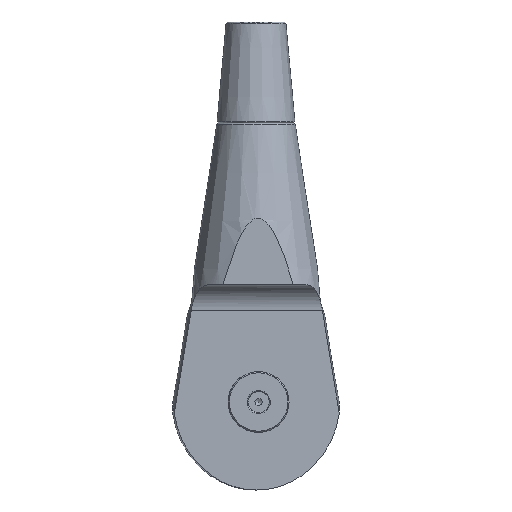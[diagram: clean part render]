
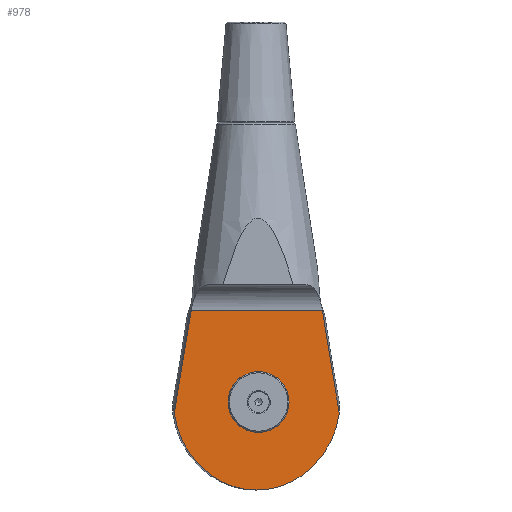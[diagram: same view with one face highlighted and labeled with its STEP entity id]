
A CAD part, left-side view. The second image highlights one B-rep face of the part: STEP entity #978.
In plain terms, the highlighted planar face has unit normal (-0.999, -0.038, 0).
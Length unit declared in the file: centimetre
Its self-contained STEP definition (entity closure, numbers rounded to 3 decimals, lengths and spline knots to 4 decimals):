
#51=LINE('',#1796,#83);
#83=VECTOR('',#1350,22.6758);
#100=(
BOUNDED_CURVE()
B_SPLINE_CURVE(2,(#1618,#1619,#1620),.UNSPECIFIED.,.F.,.F.)
B_SPLINE_CURVE_WITH_KNOTS((3,3),(0.,19.4073),.UNSPECIFIED.)
CURVE()
GEOMETRIC_REPRESENTATION_ITEM()
RATIONAL_B_SPLINE_CURVE((1.,1.01,1.008))
REPRESENTATION_ITEM('')
);
#104=(
BOUNDED_CURVE()
B_SPLINE_CURVE(2,(#1744,#1745,#1746),.UNSPECIFIED.,.F.,.F.)
B_SPLINE_CURVE_WITH_KNOTS((3,3),(12.055,31.4623),
 .UNSPECIFIED.)
CURVE()
GEOMETRIC_REPRESENTATION_ITEM()
RATIONAL_B_SPLINE_CURVE((1.008,1.01,1.))
REPRESENTATION_ITEM('')
);
#152=PLANE('',#1099);
#191=FACE_BOUND('',#356,.T.);
#254=FACE_OUTER_BOUND('',#355,.T.);
#355=EDGE_LOOP('',(#793,#794,#795,#796,#797,#798));
#356=EDGE_LOOP('',(#799));
#411=CIRCLE('',#1088,4.75);
#413=CIRCLE('',#1091,15.5873);
#415=CIRCLE('',#1094,15.5873);
#417=CIRCLE('',#1097,13.5);
#484=VERTEX_POINT('',#1594);
#485=VERTEX_POINT('',#1617);
#496=VERTEX_POINT('',#1728);
#497=VERTEX_POINT('',#1743);
#499=VERTEX_POINT('',#1776);
#501=VERTEX_POINT('',#1781);
#503=VERTEX_POINT('',#1787);
#582=EDGE_CURVE('',#484,#485,#100,.T.);
#594=EDGE_CURVE('',#496,#497,#104,.T.);
#599=EDGE_CURVE('',#499,#499,#411,.T.);
#601=EDGE_CURVE('',#496,#501,#413,.T.);
#604=EDGE_CURVE('',#503,#485,#415,.T.);
#607=EDGE_CURVE('',#501,#503,#417,.T.);
#609=EDGE_CURVE('',#484,#497,#51,.T.);
#793=ORIENTED_EDGE('',*,*,#601,.T.);
#794=ORIENTED_EDGE('',*,*,#607,.T.);
#795=ORIENTED_EDGE('',*,*,#604,.T.);
#796=ORIENTED_EDGE('',*,*,#582,.F.);
#797=ORIENTED_EDGE('',*,*,#609,.T.);
#798=ORIENTED_EDGE('',*,*,#594,.F.);
#799=ORIENTED_EDGE('',*,*,#599,.T.);
#978=ADVANCED_FACE('',(#254,#191),#152,.F.);
#1088=AXIS2_PLACEMENT_3D('',#1777,#1324,#1325);
#1091=AXIS2_PLACEMENT_3D('',#1782,#1330,#1331);
#1094=AXIS2_PLACEMENT_3D('',#1788,#1337,#1338);
#1097=AXIS2_PLACEMENT_3D('',#1793,#1344,#1345);
#1099=AXIS2_PLACEMENT_3D('',#1795,#1348,#1349);
#1324=DIRECTION('center_axis',(0.999,0.038,0.));
#1325=DIRECTION('ref_axis',(0.,0.,1.));
#1330=DIRECTION('center_axis',(-0.999,-0.038,0.));
#1331=DIRECTION('ref_axis',(0.038,-0.999,0.));
#1337=DIRECTION('center_axis',(-0.999,-0.038,0.));
#1338=DIRECTION('ref_axis',(-0.022,0.58,0.814));
#1344=DIRECTION('center_axis',(-0.999,-0.038,0.));
#1345=DIRECTION('ref_axis',(0.022,-0.58,0.814));
#1348=DIRECTION('center_axis',(0.999,0.038,0.));
#1349=DIRECTION('ref_axis',(0.,0.,1.));
#1350=DIRECTION('',(-0.038,0.999,0.));
#1594=CARTESIAN_POINT('',(-3.0678,-22.0183,-14.1716));
#1617=CARTESIAN_POINT('',(-2.9572,-24.9356,-31.9434));
#1618=CARTESIAN_POINT('Ctrl Pts',(-3.0678,-22.0183,-14.1716));
#1619=CARTESIAN_POINT('Ctrl Pts',(-3.0183,-23.3223,-22.044));
#1620=CARTESIAN_POINT('Ctrl Pts',(-2.9572,-24.9356,-31.9434));
#1728=CARTESIAN_POINT('',(-4.0378,3.5585,-31.9434));
#1743=CARTESIAN_POINT('',(-3.9272,0.6412,-14.1716));
#1744=CARTESIAN_POINT('Ctrl Pts',(-4.0378,3.5585,-31.9434));
#1745=CARTESIAN_POINT('Ctrl Pts',(-3.9766,1.9452,-22.044));
#1746=CARTESIAN_POINT('Ctrl Pts',(-3.9272,0.6412,-14.1716));
#1776=CARTESIAN_POINT('',(-3.4975,-10.6885,-34.7716));
#1777=CARTESIAN_POINT('Origin',(-3.4975,-10.6885,-30.0216));
#1781=CARTESIAN_POINT('',(-3.7943,-2.8614,-42.7169));
#1782=CARTESIAN_POINT('Origin',(-3.4516,-11.8987,-30.0216));
#1787=CARTESIAN_POINT('',(-3.2006,-18.5157,-42.7169));
#1788=CARTESIAN_POINT('Origin',(-3.5434,-9.4784,-30.0216));
#1793=CARTESIAN_POINT('Origin',(-3.4975,-10.6885,-31.7216));
#1795=CARTESIAN_POINT('Origin',(-3.4975,-10.6885,-45.2216));
#1796=CARTESIAN_POINT('',(-3.4975,-10.6885,-14.1716));
